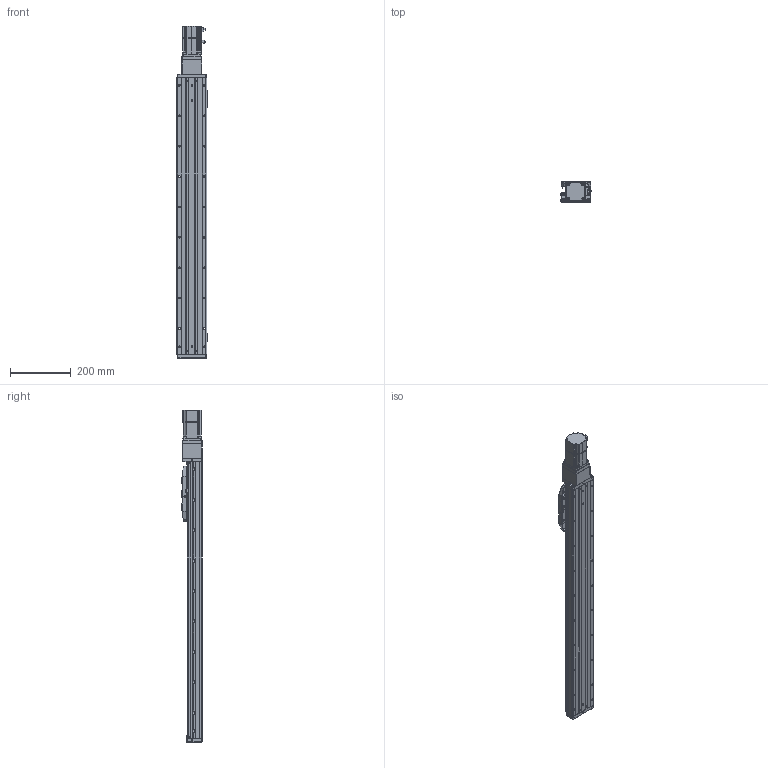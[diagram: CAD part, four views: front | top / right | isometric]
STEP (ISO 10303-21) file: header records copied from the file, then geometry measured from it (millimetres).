
FILE_DESCRIPTION (( 'STEP AP203' ), '1' );
FILE_NAME ('CTHA100-700-BC-M20-C4L.step', '2022-07-06T08:53:32', ( '微软用户' ), ( '微软中国' ), 'SwSTEP 2.0', 'SolidWorks 2020', '' );
FILE_SCHEMA (( 'CONFIG_CONTROL_DESIGN' ));
Length unit declared in the file: millimetre
Products named in the file (20): CTHA60-021; CTHA86-027; KTHA100-001_910; GBT77-2000 M3×3; CTHA86-006-1_CTHA86-006-2; KTHA100-004; GBT 70.1-M3℅6; GBT 70.3-M3℅6; KTHA100-005; GBT70.1 M5℅16; CTHA100-002; GB¨uT 70.2-M3¡Á5_M3¡Á6; CTHA60-016; CTHA100-031; EE_SX911P_R; _X2_4E0983F1_X0_200W_1; CTHA86-030; CTHA60-017; CTHA86-013; CTHA100-700-BC-M20-C4L
Assembly tree (63 placements, depth 2):
  CTHA100-700-BC-M20-C4L
    KTHA100-001_910
    KTHA100-004
    KTHA100-005
    GB¨uT 70.2-M3¡Á5_M3¡Á6  x10
    EE_SX911P_R  x3
    CTHA60-017  x3
    CTHA60-021  x2
    GBT77-2000 M3×3  x6
    GBT 70.1-M3℅6  x6
    GBT70.1 M5℅16  x14
    CTHA60-016  x2
    _X2_4E0983F1_X0_200W_1
    CTHA86-013
    CTHA86-027
    CTHA86-006-1_CTHA86-006-2
    GBT 70.3-M3℅6  x6
    CTHA100-002
    CTHA100-031
    CTHA86-030  x2
Bounding box: 98.82 x 68 x 1092.5 mm (x, y, z)
Volume: 3912676.5 mm3; surface area: 673802.3 mm2
Topology: 65 solids, 65 shells, 2679 faces, 6438 edges, 3976 vertices
Faces by surface type: plane 1399, cylinder 697, cone 378, torus 112, bspline 69, sphere 24
Entity records: 46934 total; most frequent: CARTESIAN_POINT 8786, DIRECTION 7371, ORIENTED_EDGE 7148, EDGE_CURVE 3574, AXIS2_PLACEMENT_3D 2497, VECTOR 2377, LINE 2377, VERTEX_POINT 2254
